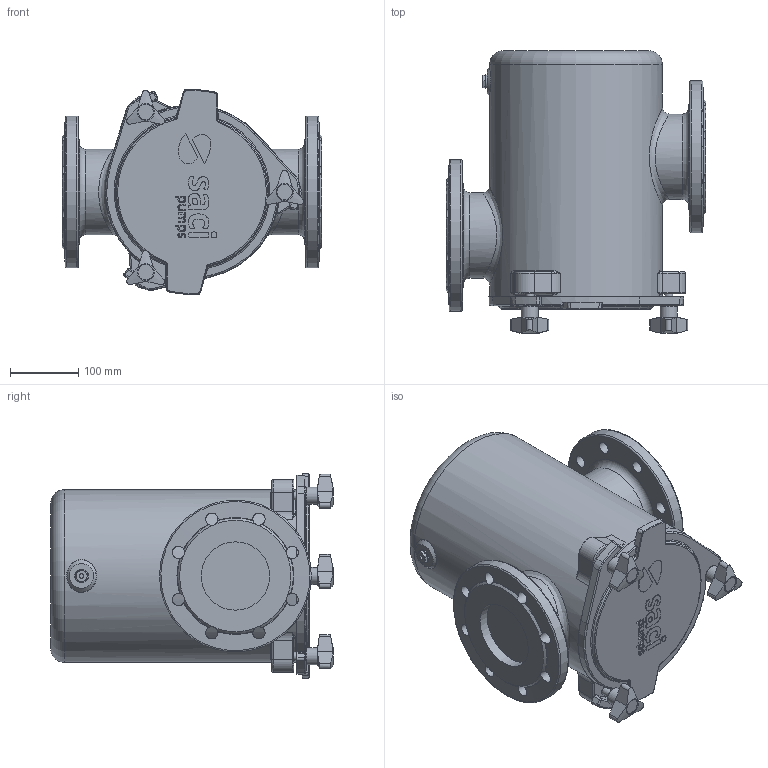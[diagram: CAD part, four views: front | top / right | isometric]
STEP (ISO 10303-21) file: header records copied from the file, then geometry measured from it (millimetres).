
FILE_DESCRIPTION(/* description */ ('Unknown'),/* implementation_level */ '2;1');
FILE_NAME(/* name */ 'PREFILTRO F 100-100 COMPLETO (SACI) ',/* time_stamp */ '2020-11-30T09:41:54+01:00',/* author */ ('Unknown'),/* organization */ ('Unknown'),/* preprocessor_version */ 'ST-DEVELOPER v16.7',/* originating_system */ 'Solid Edge',/* authorisation */ 'Unknown');
FILE_SCHEMA (('AUTOMOTIVE_DESIGN {1 0 10303 214 3 1 1}'));
Length unit declared in the file: millimetre
Products named in the file (1): PREFILTRO F 100-100 COMPLETO  (SACI)  
Bounding box: 380 x 413 x 299.77 mm (x, y, z)
Volume: 21750736 mm3; surface area: 654118.1 mm2
Topology: 2 solids, 2 shells, 504 faces, 1296 edges, 804 vertices
Faces by surface type: bspline 134, cylinder 118, plane 117, torus 69, cone 66
Full cylindrical faces by diameter (mm): 10.106 x6, 12 x3, 18 x16, 20 x1, 22.5 x3, 25 x3, 100 x2, 125 x2, 222 x2, 253 x1
Entity records: 25459 total; most frequent: CARTESIAN_POINT 11441, ORIENTED_EDGE 2320, DIRECTION 1801, EDGE_CURVE 1160, AXIS2_PLACEMENT_3D 765, VERTEX_POINT 758, FACE_BOUND 640, EDGE_LOOP 639
